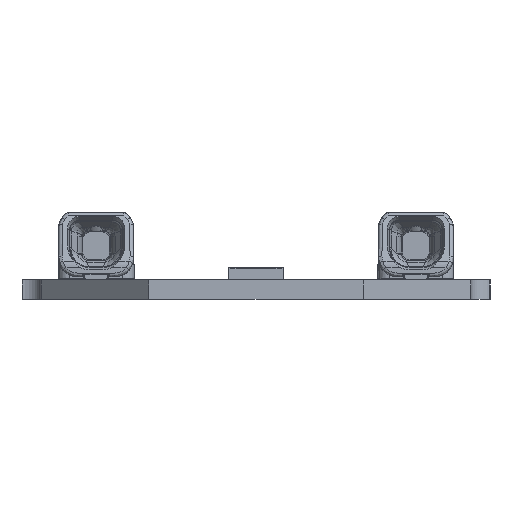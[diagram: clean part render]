
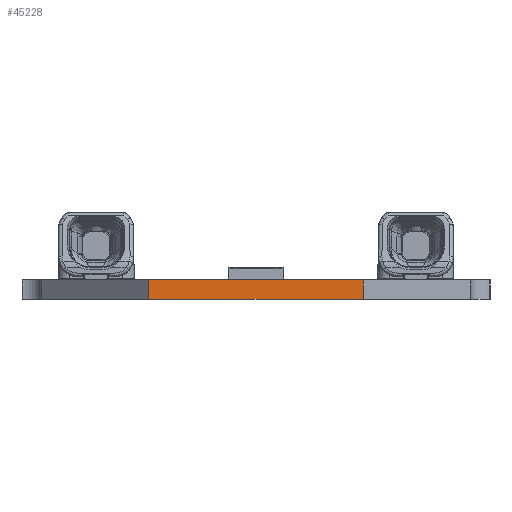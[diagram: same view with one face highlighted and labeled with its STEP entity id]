
A CAD part, left-side view. The second image highlights one B-rep face of the part: STEP entity #45228.
In plain terms, the highlighted planar face has unit normal (-1, 0, 0).
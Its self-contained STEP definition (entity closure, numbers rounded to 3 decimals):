
#2357=ORIENTED_EDGE('',*,*,#11886,.T.);
#2358=ORIENTED_EDGE('',*,*,#11923,.F.);
#2359=ORIENTED_EDGE('',*,*,#11782,.F.);
#2360=ORIENTED_EDGE('',*,*,#11924,.T.);
#11782=EDGE_CURVE('',#16618,#16619,#19718,.T.);
#11886=EDGE_CURVE('',#16688,#16722,#19786,.T.);
#11923=EDGE_CURVE('',#16619,#16722,#19821,.T.);
#11924=EDGE_CURVE('',#16618,#16688,#19822,.T.);
#16618=VERTEX_POINT('',#58053);
#16619=VERTEX_POINT('',#58055);
#16688=VERTEX_POINT('',#58194);
#16722=VERTEX_POINT('',#58262);
#19718=LINE('',#58054,#23308);
#19786=LINE('',#58263,#23376);
#19821=LINE('',#58338,#23411);
#19822=LINE('',#58340,#23412);
#23308=VECTOR('',#49634,1000.);
#23376=VECTOR('',#49776,1000.);
#23411=VECTOR('',#49887,1000.);
#23412=VECTOR('',#49890,1000.);
#26757=EDGE_LOOP('',(#2357,#2358,#2359,#2360));
#28799=FACE_BOUND('',#26757,.T.);
#30756=PLANE('',#47159);
#45228=ADVANCED_FACE('',(#28799),#30756,.F.);
#47159=AXIS2_PLACEMENT_3D('',#58339,#49888,#49889);
#49634=DIRECTION('',(0.,-1.,0.));
#49776=DIRECTION('',(0.,-1.,0.));
#49887=DIRECTION('',(0.,0.,-1.));
#49888=DIRECTION('',(1.,0.,0.));
#49889=DIRECTION('',(0.,0.,-1.));
#49890=DIRECTION('',(0.,0.,-1.));
#58053=CARTESIAN_POINT('',(-139.8,5.5,1.));
#58054=CARTESIAN_POINT('',(-139.8,5.5,1.));
#58055=CARTESIAN_POINT('',(-139.8,-5.5,1.));
#58194=CARTESIAN_POINT('',(-139.8,5.5,0.));
#58262=CARTESIAN_POINT('',(-139.8,-5.5,0.));
#58263=CARTESIAN_POINT('',(-139.8,5.5,0.));
#58338=CARTESIAN_POINT('',(-139.8,-5.5,1.));
#58339=CARTESIAN_POINT('',(-139.8,5.5,1.));
#58340=CARTESIAN_POINT('',(-139.8,5.5,1.));
